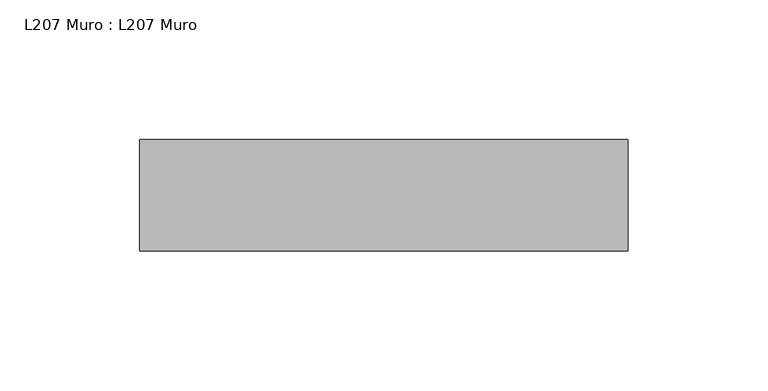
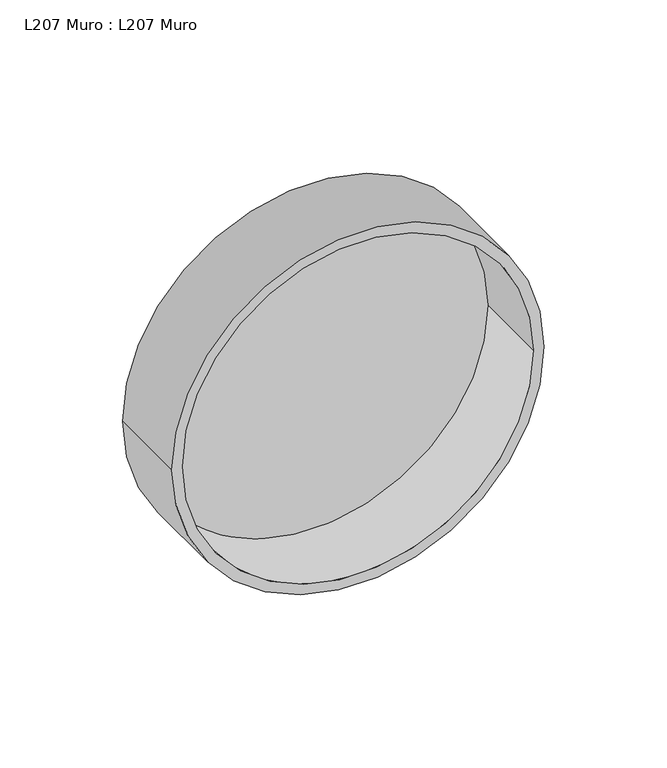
"""IFC4 building model written with IfcOpenShell, lengths in millimetres: light fixture geometry, L207 Muro : L207 Muro."""

import ifcopenshell
import ifcopenshell.guid

model = None  # the IFC model being written
_history = None  # IfcOwnerHistory: only IFC2X3 demands one
_inside = {}  # id of a spatial element -> (the spatial element, [elements in it])
_under = {}  # id of a project, library or spatial element -> (it, [spatial elements below it])
_declared = {}  # id of a project -> (the project, [libraries it declares])
_typed = {}  # id of a type object -> (the type object, [elements of that type])
_made_of = {}  # id of a material, layer set ... -> (it, [elements and type objects made of it])


def new_model(schema):
    """Start an empty IFC model of exactly this schema.

    Asked for "IFC4X3", IfcOpenShell would pick the latest addendum, in which some entities
    have other attributes; the version numbers below select the first issue.
    IFC2X3 requires an IfcOwnerHistory on every rooted entity: one is made here for all.
    """
    global model, _history
    if schema == "IFC4X3":
        model = ifcopenshell.file(schema_version=(4, 3, 0, 0))
    else:
        model = ifcopenshell.file(schema=schema)
    _inside.clear()
    _under.clear()
    _declared.clear()
    _typed.clear()
    _made_of.clear()
    _history = None
    if model.schema == "IFC2X3":
        org = make("IfcOrganization", Name="unknown")
        user = make(
            "IfcPersonAndOrganization",
            ThePerson=make("IfcPerson", FamilyName="unknown"),
            TheOrganization=org,
        )
        app = make(
            "IfcApplication",
            ApplicationDeveloper=org,
            Version="unknown",
            ApplicationFullName="unknown",
            ApplicationIdentifier="unknown",
        )
        _history = make(
            "IfcOwnerHistory",
            OwningUser=user,
            OwningApplication=app,
            ChangeAction="ADDED",
            CreationDate=0,
        )
    return model


def make(cls, **values):
    """One entity of the class cls with the attributes given. An attribute that is None is left unset."""
    return model.create_entity(
        cls, **{name: value for name, value in values.items() if value is not None}
    )


def rooted(cls, **values):
    """An entity with a GlobalId (a new one), such as an element, a storey or a relation."""
    return make(cls, GlobalId=ifcopenshell.guid.new(), OwnerHistory=_history, **values)


def si_unit(unit_type, name, prefix=None):
    """IfcSIUnit, for example si_unit("LENGTHUNIT", "METRE", prefix="MILLI")."""
    return make("IfcSIUnit", UnitType=unit_type, Prefix=prefix, Name=name)


def assignment(units):
    """IfcUnitAssignment: the units of a project."""
    return None if units is None else make("IfcUnitAssignment", Units=units)


def point(xyz):
    """IfcCartesianPoint."""
    return None if xyz is None else make("IfcCartesianPoint", Coordinates=xyz)


def direction(xyz):
    """IfcDirection."""
    return None if xyz is None else make("IfcDirection", DirectionRatios=xyz)


def frame(location, z_axis=None, x_axis=None):
    """IfcAxis2Placement3D, a coordinate frame: its origin and axes. An axis left out is left unset."""
    return make(
        "IfcAxis2Placement3D",
        Location=point(location),
        Axis=direction(z_axis),
        RefDirection=direction(x_axis),
    )


def frame_2d(location, x_axis=None):
    """IfcAxis2Placement2D, a coordinate frame in the plane: its origin and x axis."""
    return make(
        "IfcAxis2Placement2D", Location=point(location), RefDirection=direction(x_axis)
    )


def origin():
    """The frame at (0, 0, 0) with its axes left unset."""
    return frame((0.0, 0.0, 0.0))


def place(relative_to, where):
    """IfcLocalPlacement: puts the frame where relative to a parent placement (None: the world)."""
    return make(
        "IfcLocalPlacement", PlacementRelTo=relative_to, RelativePlacement=where
    )


def context(
    kind, dimensions, precision=None, world=None, true_north=None, identifier=None
):
    """IfcGeometricRepresentationContext, for example the 3D "Model" context."""
    return make(
        "IfcGeometricRepresentationContext",
        ContextIdentifier=identifier,
        ContextType=kind,
        CoordinateSpaceDimension=dimensions,
        Precision=precision,
        WorldCoordinateSystem=world,
        TrueNorth=true_north,
    )


def project(units=None, contexts=None):
    """IfcProject with its units and contexts."""
    return rooted(
        "IfcProject",
        Name="project",
        RepresentationContexts=contexts,
        UnitsInContext=assignment(units),
    )


def spatial(cls, under=None, at=None, **own):
    """A site, building, storey or space (cls), placed at a placement, below another one or the project."""
    s = rooted(cls, ObjectPlacement=at, **own)
    if under is not None:
        _under.setdefault(under.id(), (under, []))[1].append(s)
    return s


def circle_curve(where, radius):
    """IfcCircle in the frame where."""
    return make("IfcCircle", Position=where, Radius=radius)


def trimmed(basis, trim1, trim2, sense, master):
    """IfcTrimmedCurve: the piece of a basis curve between two trims."""
    return make(
        "IfcTrimmedCurve",
        BasisCurve=basis,
        Trim1=trim1,
        Trim2=trim2,
        SenseAgreement=sense,
        MasterRepresentation=master,
    )


def segment(curve, same_sense, transition):
    """IfcCompositeCurveSegment."""
    return make(
        "IfcCompositeCurveSegment",
        Transition=transition,
        SameSense=same_sense,
        ParentCurve=curve,
    )


def composite_curve(segments, self_intersect=None):
    """IfcCompositeCurve: segments joined end to end."""
    return make("IfcCompositeCurve", Segments=segments, SelfIntersect=self_intersect)


def outline(outer, holes=None, kind="AREA"):
    """IfcArbitraryClosedProfileDef: a profile drawn as a closed curve; with holes, ...WithVoids."""
    if holes is None:
        return make("IfcArbitraryClosedProfileDef", ProfileType=kind, OuterCurve=outer)
    return make(
        "IfcArbitraryProfileDefWithVoids",
        ProfileType=kind,
        OuterCurve=outer,
        InnerCurves=holes,
    )


def extrude(swept, where, along, depth):
    """IfcExtrudedAreaSolid: the profile swept, set in the frame where, extruded along a direction by depth."""
    return make(
        "IfcExtrudedAreaSolid",
        SweptArea=swept,
        Position=where,
        ExtrudedDirection=direction(along),
        Depth=depth,
    )


def shape(context_of_items, identifier, shape_type, items):
    """IfcShapeRepresentation: the items that make up one representation, for example the "Body"."""
    return make(
        "IfcShapeRepresentation",
        ContextOfItems=context_of_items,
        RepresentationIdentifier=identifier,
        RepresentationType=shape_type,
        Items=items,
    )


def source(mapping_origin, context_of_items, identifier, shape_type, items):
    """IfcRepresentationMap: a shape defined once, which mapped items show again and again."""
    return make(
        "IfcRepresentationMap",
        MappingOrigin=mapping_origin,
        MappedRepresentation=shape(context_of_items, identifier, shape_type, items),
    )


def transform(
    local_origin,
    x_axis=None,
    y_axis=None,
    z_axis=None,
    scale=None,
    scale2=None,
    scale3=None,
    uniform=True,
):
    """IfcCartesianTransformationOperator3D, or its non-uniform kind. x_axis, y_axis, z_axis: its Axis1, 2, 3."""
    if uniform:
        return make(
            "IfcCartesianTransformationOperator3D",
            Axis1=direction(x_axis),
            Axis2=direction(y_axis),
            LocalOrigin=point(local_origin),
            Scale=scale,
            Axis3=direction(z_axis),
        )
    return make(
        "IfcCartesianTransformationOperator3DnonUniform",
        Axis1=direction(x_axis),
        Axis2=direction(y_axis),
        LocalOrigin=point(local_origin),
        Scale=scale,
        Axis3=direction(z_axis),
        Scale2=scale2,
        Scale3=scale3,
    )


def mapped(mapping_source, mapping_target):
    """IfcMappedItem: shows the shape of a source again, moved by a transform."""
    return make(
        "IfcMappedItem", MappingSource=mapping_source, MappingTarget=mapping_target
    )


def made_of(thing, what):
    """Note that an element or type object is made of a material, layer set ...; save() writes the relation."""
    if what is not None:
        _made_of.setdefault(what.id(), (what, []))[1].append(thing)
    return thing


def element(
    cls,
    number,
    at=None,
    inside=None,
    cuts=None,
    type_object=None,
    material=None,
    context=None,
    identifier="Body",
    shape_type=None,
    held_by="IfcProductDefinitionShape",
    body=None,
    shapes=None,
    **own,
):
    """One element of the class cls, such as IfcWall. Its Tag is "e" and its number.

    at: its placement. inside: the storey or other place that contains it. cuts: it is an
    opening in that element (IfcRelVoidsElement). A single representation is given by context,
    identifier, shape_type and body (its items); several are given by shapes. held_by: the class
    of the entity that holds the representations. save() writes the other relations.
    """
    e = rooted(cls, Tag="e%d" % number, ObjectPlacement=at, **own)
    if body is not None:
        shapes = [shape(context, identifier, shape_type, body)]
    if shapes is not None:
        e.Representation = make(held_by, Representations=shapes)
    if inside is not None:
        _inside.setdefault(inside.id(), (inside, []))[1].append(e)
    if cuts is not None:
        rooted(
            "IfcRelVoidsElement", RelatingBuildingElement=cuts, RelatedOpeningElement=e
        )
    if type_object is not None:
        _typed.setdefault(type_object.id(), (type_object, []))[1].append(e)
    return made_of(e, material)


def aggregate(whole, parts):
    """IfcRelAggregates: a whole, such as a stair, and the parts it consists of."""
    return rooted("IfcRelAggregates", RelatingObject=whole, RelatedObjects=parts)


def save(model, path):
    """Write the relations noted so far, then the file.

    IfcRelAggregates (storeys below a building ...), IfcRelContainedInSpatialStructure (elements
    in a storey), IfcRelDefinesByType, IfcRelAssociatesMaterial and IfcRelDeclares: one each for
    every whole, place, type object, material and project.
    """
    for whole, parts in _under.values():
        aggregate(whole, parts)
    for where, things in _inside.values():
        rooted(
            "IfcRelContainedInSpatialStructure",
            RelatedElements=things,
            RelatingStructure=where,
        )
    for kind, things in _typed.values():
        rooted("IfcRelDefinesByType", RelatedObjects=things, RelatingType=kind)
    for what, things in _made_of.values():
        rooted("IfcRelAssociatesMaterial", RelatedObjects=things, RelatingMaterial=what)
    for by, libraries in _declared.values():
        rooted("IfcRelDeclares", RelatingContext=by, RelatedDefinitions=libraries)
    model.write(path)


def l207_muro_l207_muro_8cf962c2(model_context):
    return source(origin(), model_context, "Body", "SweptSolid", [
        extrude(outline(composite_curve([segment(trimmed(circle_curve(frame_2d((1920.0, 125.0)), 82.5), [point((1920.0, 42.5))], [point((1920.0, 207.5))], False, "CARTESIAN"), True, "CONTINUOUS"), segment(trimmed(circle_curve(frame_2d((1920.0, 125.0)), 82.5), [point((1920.0, 207.5))], [point((1920.0, 42.5))], False, "CARTESIAN"), True, "CONTINUOUS")], self_intersect=False)), frame((0.0, 94.5, 0.0), z_axis=(0.0, 1.0, 0.0), x_axis=(0.0, 0.0, 1.0)), (0.0, 0.0, 1.0), 3.0),
        extrude(outline(composite_curve([segment(trimmed(circle_curve(frame_2d((1920.0, 125.0)), 87.5), [point((1920.0, 212.5))], [point((1920.0, 37.5))], False, "CARTESIAN"), True, "CONTINUOUS"), segment(trimmed(circle_curve(frame_2d((1920.0, 125.0)), 87.5), [point((1920.0, 37.5))], [point((1920.0, 212.5))], False, "CARTESIAN"), True, "CONTINUOUS")], self_intersect=False), holes=[composite_curve([segment(trimmed(circle_curve(frame_2d((1920.0, 125.0)), 82.5), [point((1920.0, 207.5))], [point((1920.0, 42.5))], True, "CARTESIAN"), True, "CONTINUOUS"), segment(trimmed(circle_curve(frame_2d((1920.0, 125.0)), 82.5), [point((1920.0, 42.5))], [point((1920.0, 207.5))], True, "CARTESIAN"), True, "CONTINUOUS")], self_intersect=False)]), frame((0.0, 57.5, 0.0), z_axis=(0.0, 1.0, 0.0), x_axis=(0.0, 0.0, 1.0)), (0.0, 0.0, 1.0), 40.0),
    ])


if __name__ == "__main__":
    model = new_model("IFC4")
    model_context = context("Model", 3, world=origin())
    ifc_project = project(units=[si_unit("LENGTHUNIT", "METRE", prefix="MILLI")], contexts=[model_context])
    site = spatial("IfcSite", under=ifc_project)
    building = spatial("IfcBuilding", under=site)
    placement = place(None, origin())
    l207_muro_l207_muro_shape = l207_muro_l207_muro_8cf962c2(model_context)
    element("IfcLightFixture", 1, ObjectType="L207 Muro : L207 Muro", at=placement, inside=building, context=model_context, shape_type="MappedRepresentation", body=[
        mapped(l207_muro_l207_muro_shape, transform((0.0, 0.0, 0.0), x_axis=(1.0, 0.0, 0.0), y_axis=(0.0, 1.0, 0.0), z_axis=(0.0, 0.0, 1.0))),
    ])
    save(model, "model.ifc")
